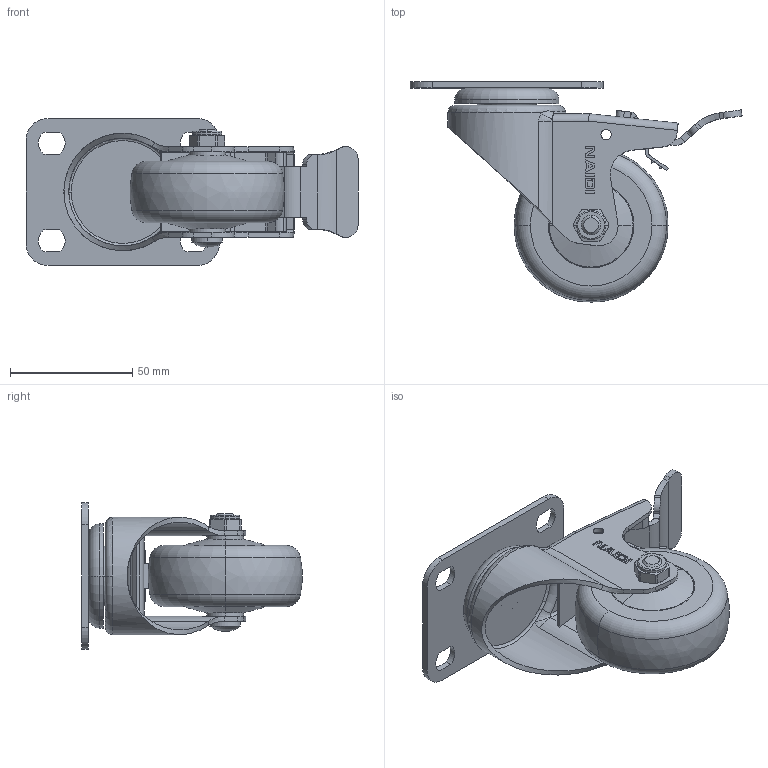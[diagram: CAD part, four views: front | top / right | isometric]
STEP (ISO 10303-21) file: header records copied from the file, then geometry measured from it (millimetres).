
FILE_DESCRIPTION((''),'2;1');
FILE_NAME('C341225L_ASM','2024-09-24T',('Lenovo'),(''),'PRO/ENGINEER BY PARAMETRIC TECHNOLOGY CORPORATION, 2010280','PRO/ENGINEER BY PARAMETRIC TECHNOLOGY CORPORATION, 2010280','');
FILE_SCHEMA(('CONFIG_CONTROL_DESIGN'));
Length unit declared in the file: millimetre
Products named in the file (11): C34125-321; C3410-201; C3410-211; 300-31; C340-13; C3410-14; C3425-967; 3725-69; 350-33A; 300-34; C341225L_ASM
Assembly tree (11 placements, depth 2):
  C341225L_ASM
    C34125-321
    C3410-201
    C3410-211
    300-31
    C340-13
    C3410-14
    C3425-967
    3725-69  x2
    350-33A
    300-34
Bounding box: 135.62 x 89.92 x 60 mm (x, y, z)
Volume: 108283.5 mm3; surface area: 60659.2 mm2
Topology: 11 solids, 11 shells, 424 faces, 1022 edges, 639 vertices
Faces by surface type: plane 197, cylinder 140, torus 42, bspline 25, cone 18, sphere 2
Entity records: 13509 total; most frequent: CARTESIAN_POINT 3807, DIRECTION 2048, ORIENTED_EDGE 1928, EDGE_CURVE 964, AXIS2_PLACEMENT_3D 745, VERTEX_POINT 607, VECTOR 558, LINE 558
